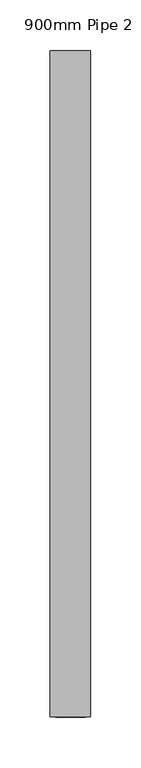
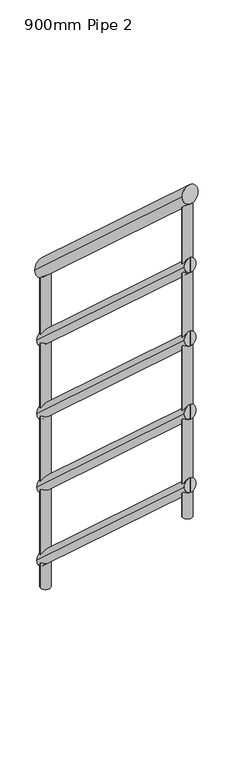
"""IFC4 building model written with IfcOpenShell, lengths in millimetres: railing geometry, 900mm Pipe 2."""

import ifcopenshell
import ifcopenshell.guid

model = None  # the IFC model being written
_history = None  # IfcOwnerHistory: only IFC2X3 demands one
_inside = {}  # id of a spatial element -> (the spatial element, [elements in it])
_under = {}  # id of a project, library or spatial element -> (it, [spatial elements below it])
_declared = {}  # id of a project -> (the project, [libraries it declares])
_typed = {}  # id of a type object -> (the type object, [elements of that type])
_made_of = {}  # id of a material, layer set ... -> (it, [elements and type objects made of it])


def new_model(schema):
    """Start an empty IFC model of exactly this schema.

    Asked for "IFC4X3", IfcOpenShell would pick the latest addendum, in which some entities
    have other attributes; the version numbers below select the first issue.
    IFC2X3 requires an IfcOwnerHistory on every rooted entity: one is made here for all.
    """
    global model, _history
    if schema == "IFC4X3":
        model = ifcopenshell.file(schema_version=(4, 3, 0, 0))
    else:
        model = ifcopenshell.file(schema=schema)
    _inside.clear()
    _under.clear()
    _declared.clear()
    _typed.clear()
    _made_of.clear()
    _history = None
    if model.schema == "IFC2X3":
        org = make("IfcOrganization", Name="unknown")
        user = make(
            "IfcPersonAndOrganization",
            ThePerson=make("IfcPerson", FamilyName="unknown"),
            TheOrganization=org,
        )
        app = make(
            "IfcApplication",
            ApplicationDeveloper=org,
            Version="unknown",
            ApplicationFullName="unknown",
            ApplicationIdentifier="unknown",
        )
        _history = make(
            "IfcOwnerHistory",
            OwningUser=user,
            OwningApplication=app,
            ChangeAction="ADDED",
            CreationDate=0,
        )
    return model


def make(cls, **values):
    """One entity of the class cls with the attributes given. An attribute that is None is left unset."""
    return model.create_entity(
        cls, **{name: value for name, value in values.items() if value is not None}
    )


def rooted(cls, **values):
    """An entity with a GlobalId (a new one), such as an element, a storey or a relation."""
    return make(cls, GlobalId=ifcopenshell.guid.new(), OwnerHistory=_history, **values)


def si_unit(unit_type, name, prefix=None):
    """IfcSIUnit, for example si_unit("LENGTHUNIT", "METRE", prefix="MILLI")."""
    return make("IfcSIUnit", UnitType=unit_type, Prefix=prefix, Name=name)


def assignment(units):
    """IfcUnitAssignment: the units of a project."""
    return None if units is None else make("IfcUnitAssignment", Units=units)


def point(xyz):
    """IfcCartesianPoint."""
    return None if xyz is None else make("IfcCartesianPoint", Coordinates=xyz)


def direction(xyz):
    """IfcDirection."""
    return None if xyz is None else make("IfcDirection", DirectionRatios=xyz)


def frame(location, z_axis=None, x_axis=None):
    """IfcAxis2Placement3D, a coordinate frame: its origin and axes. An axis left out is left unset."""
    return make(
        "IfcAxis2Placement3D",
        Location=point(location),
        Axis=direction(z_axis),
        RefDirection=direction(x_axis),
    )


def origin():
    """The frame at (0, 0, 0) with its axes left unset."""
    return frame((0.0, 0.0, 0.0))


def place(relative_to, where):
    """IfcLocalPlacement: puts the frame where relative to a parent placement (None: the world)."""
    return make(
        "IfcLocalPlacement", PlacementRelTo=relative_to, RelativePlacement=where
    )


def context(
    kind, dimensions, precision=None, world=None, true_north=None, identifier=None
):
    """IfcGeometricRepresentationContext, for example the 3D "Model" context."""
    return make(
        "IfcGeometricRepresentationContext",
        ContextIdentifier=identifier,
        ContextType=kind,
        CoordinateSpaceDimension=dimensions,
        Precision=precision,
        WorldCoordinateSystem=world,
        TrueNorth=true_north,
    )


def project(units=None, contexts=None):
    """IfcProject with its units and contexts."""
    return rooted(
        "IfcProject",
        Name="project",
        RepresentationContexts=contexts,
        UnitsInContext=assignment(units),
    )


def spatial(cls, under=None, at=None, **own):
    """A site, building, storey or space (cls), placed at a placement, below another one or the project."""
    s = rooted(cls, ObjectPlacement=at, **own)
    if under is not None:
        _under.setdefault(under.id(), (under, []))[1].append(s)
    return s


def circle_curve(where, radius):
    """IfcCircle in the frame where."""
    return make("IfcCircle", Position=where, Radius=radius)


def ellipse_curve(where, semi_axis1, semi_axis2):
    """IfcEllipse in the frame where."""
    return make(
        "IfcEllipse", Position=where, SemiAxis1=semi_axis1, SemiAxis2=semi_axis2
    )


def shape(context_of_items, identifier, shape_type, items):
    """IfcShapeRepresentation: the items that make up one representation, for example the "Body"."""
    return make(
        "IfcShapeRepresentation",
        ContextOfItems=context_of_items,
        RepresentationIdentifier=identifier,
        RepresentationType=shape_type,
        Items=items,
    )


def source(mapping_origin, context_of_items, identifier, shape_type, items):
    """IfcRepresentationMap: a shape defined once, which mapped items show again and again."""
    return make(
        "IfcRepresentationMap",
        MappingOrigin=mapping_origin,
        MappedRepresentation=shape(context_of_items, identifier, shape_type, items),
    )


def transform(
    local_origin,
    x_axis=None,
    y_axis=None,
    z_axis=None,
    scale=None,
    scale2=None,
    scale3=None,
    uniform=True,
):
    """IfcCartesianTransformationOperator3D, or its non-uniform kind. x_axis, y_axis, z_axis: its Axis1, 2, 3."""
    if uniform:
        return make(
            "IfcCartesianTransformationOperator3D",
            Axis1=direction(x_axis),
            Axis2=direction(y_axis),
            LocalOrigin=point(local_origin),
            Scale=scale,
            Axis3=direction(z_axis),
        )
    return make(
        "IfcCartesianTransformationOperator3DnonUniform",
        Axis1=direction(x_axis),
        Axis2=direction(y_axis),
        LocalOrigin=point(local_origin),
        Scale=scale,
        Axis3=direction(z_axis),
        Scale2=scale2,
        Scale3=scale3,
    )


def mapped(mapping_source, mapping_target):
    """IfcMappedItem: shows the shape of a source again, moved by a transform."""
    return make(
        "IfcMappedItem", MappingSource=mapping_source, MappingTarget=mapping_target
    )


def made_of(thing, what):
    """Note that an element or type object is made of a material, layer set ...; save() writes the relation."""
    if what is not None:
        _made_of.setdefault(what.id(), (what, []))[1].append(thing)
    return thing


def element(
    cls,
    number,
    at=None,
    inside=None,
    cuts=None,
    type_object=None,
    material=None,
    context=None,
    identifier="Body",
    shape_type=None,
    held_by="IfcProductDefinitionShape",
    body=None,
    shapes=None,
    **own,
):
    """One element of the class cls, such as IfcWall. Its Tag is "e" and its number.

    at: its placement. inside: the storey or other place that contains it. cuts: it is an
    opening in that element (IfcRelVoidsElement). A single representation is given by context,
    identifier, shape_type and body (its items); several are given by shapes. held_by: the class
    of the entity that holds the representations. save() writes the other relations.
    """
    e = rooted(cls, Tag="e%d" % number, ObjectPlacement=at, **own)
    if body is not None:
        shapes = [shape(context, identifier, shape_type, body)]
    if shapes is not None:
        e.Representation = make(held_by, Representations=shapes)
    if inside is not None:
        _inside.setdefault(inside.id(), (inside, []))[1].append(e)
    if cuts is not None:
        rooted(
            "IfcRelVoidsElement", RelatingBuildingElement=cuts, RelatedOpeningElement=e
        )
    if type_object is not None:
        _typed.setdefault(type_object.id(), (type_object, []))[1].append(e)
    return made_of(e, material)


def aggregate(whole, parts):
    """IfcRelAggregates: a whole, such as a stair, and the parts it consists of."""
    return rooted("IfcRelAggregates", RelatingObject=whole, RelatedObjects=parts)


def save(model, path):
    """Write the relations noted so far, then the file.

    IfcRelAggregates (storeys below a building ...), IfcRelContainedInSpatialStructure (elements
    in a storey), IfcRelDefinesByType, IfcRelAssociatesMaterial and IfcRelDeclares: one each for
    every whole, place, type object, material and project.
    """
    for whole, parts in _under.values():
        aggregate(whole, parts)
    for where, things in _inside.values():
        rooted(
            "IfcRelContainedInSpatialStructure",
            RelatedElements=things,
            RelatingStructure=where,
        )
    for kind, things in _typed.values():
        rooted("IfcRelDefinesByType", RelatedObjects=things, RelatingType=kind)
    for what, things in _made_of.values():
        rooted("IfcRelAssociatesMaterial", RelatedObjects=things, RelatingMaterial=what)
    for by, libraries in _declared.values():
        rooted("IfcRelDeclares", RelatingContext=by, RelatedDefinitions=libraries)
    model.write(path)


def plane_surface(at):
    """IfcPlane: the flat surface through the origin of the frame at, square to its z axis."""
    return make("IfcPlane", Position=at)


def cylinder_surface(at, radius):
    """IfcCylindricalSurface: all points at the distance radius from the z axis of the frame at."""
    return make("IfcCylindricalSurface", Position=at, Radius=radius)


def advanced_brep(points, edges, surfaces, faces):
    """IfcAdvancedBrep: a solid bounded by faces that lie on surfaces and meet in shared edges.

    An edge is (start, end): straight between two places in points (the first is 0);
    or (start, end, curve); or (start, end, curve, False) where it runs against its curve.
    A face is (place in surfaces, loops), or (place, loops, False) where it looks against
    its surface's normal. A loop lists edges by number (the first is 1), with a minus sign
    where the edge is run from its end to its start. The first loop is the outer one.
    """
    corners = [point(p) for p in points]
    vertices = [make("IfcVertexPoint", VertexGeometry=c) for c in corners]
    made = []
    for start, end, *more in edges:
        made.append(
            make(
                "IfcEdgeCurve",
                EdgeStart=vertices[start],
                EdgeEnd=vertices[end],
                EdgeGeometry=more[0] if more else make("IfcPolyline", Points=[corners[start], corners[end]]),
                SameSense=more[1] if len(more) > 1 else True,
            )
        )
    hull = []
    for where, loops, *sense in faces:
        bounds = []
        for j, loop in enumerate(loops):
            ring = [make("IfcOrientedEdge", EdgeElement=made[abs(k) - 1], Orientation=k > 0) for k in loop]
            bounds.append(
                make(
                    "IfcFaceOuterBound" if j == 0 else "IfcFaceBound",
                    Bound=make("IfcEdgeLoop", EdgeList=ring),
                    Orientation=True,
                )
            )
        hull.append(make("IfcAdvancedFace", Bounds=bounds, FaceSurface=surfaces[where], SameSense=sense[0] if sense else True))
    return make("IfcAdvancedBrep", Outer=make("IfcClosedShell", CfsFaces=hull))


def railing_900mm_pipe_2_4ab0b3c4(model_context):
    return source(origin(), model_context, "Body", "AdvancedBrep", [
        advanced_brep(
        [(-4971.8266822, 6973.2328473, 272.9707841), (-5011.8266822, 6973.2328473, 272.9707841), (-4971.8266822, 6313.2328473, 872.9707841), (-5011.8266822, 6313.2328473, 872.9707841)],
        [
            (0, 1, ellipse_curve(frame((-4991.8266822, 6973.2328473, 272.9707841), z_axis=(0.0, 1.0, 0.0), x_axis=(0.0, 0.0, -1.0)), 27.0292159, 20.0)),
            (1, 0, ellipse_curve(frame((-4991.8266822, 6973.2328473, 272.9707841), z_axis=(0.0, 1.0, 0.0), x_axis=(0.0, 0.0, -1.0)), 27.0292159, 20.0)),
            (2, 3, ellipse_curve(frame((-4991.8266822, 6313.2328473, 872.9707841), z_axis=(0.0, -1.0, 0.0), x_axis=(0.0, 0.0, -1.0)), 27.0292159, 20.0)),
            (3, 2, ellipse_curve(frame((-4991.8266822, 6313.2328473, 872.9707841), z_axis=(0.0, -1.0, 0.0), x_axis=(0.0, 0.0, -1.0)), 27.0292159, 20.0)),
            (0, 2),
            (3, 1),
        ],
        [
            plane_surface(frame((-4991.8266822, 6973.2328473, 300.0), z_axis=(0.0, 1.0, 0.0), x_axis=(0.0, 0.0, -1.0))),
            plane_surface(frame((-4991.8266822, 6313.2328473, 900.0), z_axis=(0.0, -1.0, 0.0), x_axis=(0.0, 0.0, -1.0))),
            cylinder_surface(frame((-4991.8266822, 6959.7793914, 285.2011985), z_axis=(0.0, 0.7399400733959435, -0.6726727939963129), x_axis=(-1.0, 0.0, 0.0)), 20.0),
        ],
        [
            (0, [[1, 2]]),
            (1, [[3, 4]]),
            (2, [[-1, 5, -4, 6]]),
            (2, [[-2, -6, -3, -5]]),
        ],
    ),
        advanced_brep(
        [(-4976.8266822, 6973.2328473, 79.7280881), (-5006.8266822, 6973.2328473, 79.7280881), (-4976.8266822, 6313.2328473, 679.7280881), (-5006.8266822, 6313.2328473, 679.7280881)],
        [
            (0, 1, ellipse_curve(frame((-4991.8266822, 6973.2328473, 79.7280881), z_axis=(0.0, 1.0, 0.0), x_axis=(0.0, 0.0, -1.0)), 20.2719119, 15.0)),
            (1, 0, ellipse_curve(frame((-4991.8266822, 6973.2328473, 79.7280881), z_axis=(0.0, 1.0, 0.0), x_axis=(0.0, 0.0, -1.0)), 20.2719119, 15.0)),
            (2, 3, ellipse_curve(frame((-4991.8266822, 6313.2328473, 679.7280881), z_axis=(0.0, -1.0, 0.0), x_axis=(0.0, 0.0, -1.0)), 20.2719119, 15.0)),
            (3, 2, ellipse_curve(frame((-4991.8266822, 6313.2328473, 679.7280881), z_axis=(0.0, -1.0, 0.0), x_axis=(0.0, 0.0, -1.0)), 20.2719119, 15.0)),
            (0, 2),
            (3, 1),
        ],
        [
            plane_surface(frame((-4991.8266822, 6973.2328473, 100.0), z_axis=(0.0, 1.0, 0.0), x_axis=(0.0, 0.0, -1.0))),
            plane_surface(frame((-4991.8266822, 6313.2328473, 700.0), z_axis=(0.0, -1.0, 0.0), x_axis=(0.0, 0.0, -1.0))),
            cylinder_surface(frame((-4991.8266822, 6963.1427553, 88.9008989), z_axis=(0.0, 0.7399400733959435, -0.6726727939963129), x_axis=(-1.0, 0.0, 0.0)), 15.0),
        ],
        [
            (0, [[1, 2]]),
            (1, [[3, 4]]),
            (2, [[-1, 5, -4, 6]]),
            (2, [[-2, -6, -3, -5]]),
        ],
    ),
        advanced_brep(
        [(-4976.8266822, 6973.2328473, -120.2719119), (-5006.8266822, 6973.2328473, -120.2719119), (-4976.8266822, 6313.2328473, 479.7280881), (-5006.8266822, 6313.2328473, 479.7280881)],
        [
            (0, 1, ellipse_curve(frame((-4991.8266822, 6973.2328473, -120.2719119), z_axis=(0.0, 1.0, 0.0), x_axis=(0.0, 0.0, -1.0)), 20.2719119, 15.0)),
            (1, 0, ellipse_curve(frame((-4991.8266822, 6973.2328473, -120.2719119), z_axis=(0.0, 1.0, 0.0), x_axis=(0.0, 0.0, -1.0)), 20.2719119, 15.0)),
            (2, 3, ellipse_curve(frame((-4991.8266822, 6313.2328473, 479.7280881), z_axis=(0.0, -1.0, 0.0), x_axis=(0.0, 0.0, -1.0)), 20.2719119, 15.0)),
            (3, 2, ellipse_curve(frame((-4991.8266822, 6313.2328473, 479.7280881), z_axis=(0.0, -1.0, 0.0), x_axis=(0.0, 0.0, -1.0)), 20.2719119, 15.0)),
            (0, 2),
            (3, 1),
        ],
        [
            plane_surface(frame((-4991.8266822, 6973.2328473, -100.0), z_axis=(0.0, 1.0, 0.0), x_axis=(0.0, 0.0, -1.0))),
            plane_surface(frame((-4991.8266822, 6313.2328473, 500.0), z_axis=(0.0, -1.0, 0.0), x_axis=(0.0, 0.0, -1.0))),
            cylinder_surface(frame((-4991.8266822, 6963.1427553, -111.0991011), z_axis=(0.0, 0.7399400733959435, -0.6726727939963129), x_axis=(-1.0, 0.0, 0.0)), 15.0),
        ],
        [
            (0, [[1, 2]]),
            (1, [[3, 4]]),
            (2, [[-1, 5, -4, 6]]),
            (2, [[-2, -6, -3, -5]]),
        ],
    ),
        advanced_brep(
        [(-4976.8266822, 6973.2328473, -320.2719119), (-5006.8266822, 6973.2328473, -320.2719119), (-4976.8266822, 6313.2328473, 279.7280881), (-5006.8266822, 6313.2328473, 279.7280881)],
        [
            (0, 1, ellipse_curve(frame((-4991.8266822, 6973.2328473, -320.2719119), z_axis=(0.0, 1.0, 0.0), x_axis=(0.0, 0.0, -1.0)), 20.2719119, 15.0)),
            (1, 0, ellipse_curve(frame((-4991.8266822, 6973.2328473, -320.2719119), z_axis=(0.0, 1.0, 0.0), x_axis=(0.0, 0.0, -1.0)), 20.2719119, 15.0)),
            (2, 3, ellipse_curve(frame((-4991.8266822, 6313.2328473, 279.7280881), z_axis=(0.0, -1.0, 0.0), x_axis=(0.0, 0.0, -1.0)), 20.2719119, 15.0)),
            (3, 2, ellipse_curve(frame((-4991.8266822, 6313.2328473, 279.7280881), z_axis=(0.0, -1.0, 0.0), x_axis=(0.0, 0.0, -1.0)), 20.2719119, 15.0)),
            (0, 2),
            (3, 1),
        ],
        [
            plane_surface(frame((-4991.8266822, 6973.2328473, -300.0), z_axis=(0.0, 1.0, 0.0), x_axis=(0.0, 0.0, -1.0))),
            plane_surface(frame((-4991.8266822, 6313.2328473, 300.0), z_axis=(0.0, -1.0, 0.0), x_axis=(0.0, 0.0, -1.0))),
            cylinder_surface(frame((-4991.8266822, 6963.1427553, -311.0991011), z_axis=(0.0, 0.7399400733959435, -0.6726727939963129), x_axis=(-1.0, 0.0, 0.0)), 15.0),
        ],
        [
            (0, [[1, 2]]),
            (1, [[3, 4]]),
            (2, [[-1, 5, -4, 6]]),
            (2, [[-2, -6, -3, -5]]),
        ],
    ),
        advanced_brep(
        [(-4976.8266822, 6973.2328473, -520.2719119), (-5006.8266822, 6973.2328473, -520.2719119), (-4976.8266822, 6313.2328473, 79.7280881), (-5006.8266822, 6313.2328473, 79.7280881)],
        [
            (0, 1, ellipse_curve(frame((-4991.8266822, 6973.2328473, -520.2719119), z_axis=(0.0, 1.0, 0.0), x_axis=(0.0, 0.0, -1.0)), 20.2719119, 15.0)),
            (1, 0, ellipse_curve(frame((-4991.8266822, 6973.2328473, -520.2719119), z_axis=(0.0, 1.0, 0.0), x_axis=(0.0, 0.0, -1.0)), 20.2719119, 15.0)),
            (2, 3, ellipse_curve(frame((-4991.8266822, 6313.2328473, 79.7280881), z_axis=(0.0, -1.0, 0.0), x_axis=(0.0, 0.0, -1.0)), 20.2719119, 15.0)),
            (3, 2, ellipse_curve(frame((-4991.8266822, 6313.2328473, 79.7280881), z_axis=(0.0, -1.0, 0.0), x_axis=(0.0, 0.0, -1.0)), 20.2719119, 15.0)),
            (0, 2),
            (3, 1),
        ],
        [
            plane_surface(frame((-4991.8266822, 6973.2328473, -500.0), z_axis=(0.0, 1.0, 0.0), x_axis=(0.0, 0.0, -1.0))),
            plane_surface(frame((-4991.8266822, 6313.2328473, 100.0), z_axis=(0.0, -1.0, 0.0), x_axis=(0.0, 0.0, -1.0))),
            cylinder_surface(frame((-4991.8266822, 6963.1427553, -511.0991011), z_axis=(0.0, 0.7399400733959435, -0.6726727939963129), x_axis=(-1.0, 0.0, 0.0)), 15.0),
        ],
        [
            (0, [[1, 2]]),
            (1, [[3, 4]]),
            (2, [[-1, 5, -4, 6]]),
            (2, [[-2, -6, -3, -5]]),
        ],
    ),
        advanced_brep(
        [(-5004.3266822, 6325.4194462, -11.0787263), (-4979.3266822, 6325.4194462, -11.0787263), (-4979.3266822, 6325.4194462, 834.8628419), (-5004.3266822, 6325.4194462, 834.8628419)],
        [
            (0, 1, circle_curve(frame((-4991.8266822, 6325.4194462, -11.0787263), z_axis=(0.0, 0.0, -1.0), x_axis=(1.0, 0.0, 0.0)), 12.5)),
            (1, 0, circle_curve(frame((-4991.8266822, 6325.4194462, -11.0787263), z_axis=(0.0, 0.0, -1.0), x_axis=(1.0, 0.0, 0.0)), 12.5)),
            (1, 2),
            (2, 3, ellipse_curve(frame((-4991.8266822, 6325.4194462, 834.8628419), z_axis=(0.0, -0.672672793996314, -0.7399400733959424), x_axis=(0.0, -0.7399400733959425, 0.6726727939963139)), 16.8932599, 12.5)),
            (3, 0),
            (3, 2, ellipse_curve(frame((-4991.8266822, 6325.4194462, 834.8628419), z_axis=(0.0, -0.672672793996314, -0.7399400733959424), x_axis=(0.0, -0.7399400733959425, 0.6726727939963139)), 16.8932599, 12.5)),
        ],
        [
            plane_surface(frame((-4979.3266822, 6325.4194462, -11.0787263), z_axis=(0.0, 0.0, -1.0), x_axis=(0.0, -1.0, 0.0))),
            cylinder_surface(frame((-4991.8266822, 6325.4194462, -11.0787263), z_axis=(0.0, 0.0, 1.0), x_axis=(1.0, 0.0, 0.0)), 12.5),
            plane_surface(frame((-4944.6008523, 6285.0592578, 871.5539222), z_axis=(0.0, 0.672672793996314, 0.7399400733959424), x_axis=(-1.0, 0.0, 0.0))),
        ],
        [
            (0, [[1, 2]]),
            (1, [[-2, 3, 4, 5]]),
            (1, [[-1, -5, 6, -3]]),
            (2, [[-4, -6]]),
        ],
    ),
        advanced_brep(
        [(-5004.3266822, 6961.0462484, -588.9212737), (-4979.3266822, 6961.0462484, -588.9212737), (-4979.3266822, 6961.0462484, 257.0202945), (-5004.3266822, 6961.0462484, 257.0202945)],
        [
            (0, 1, circle_curve(frame((-4991.8266822, 6961.0462484, -588.9212737), z_axis=(0.0, 0.0, -1.0), x_axis=(1.0, 0.0, 0.0)), 12.5)),
            (1, 0, circle_curve(frame((-4991.8266822, 6961.0462484, -588.9212737), z_axis=(0.0, 0.0, -1.0), x_axis=(1.0, 0.0, 0.0)), 12.5)),
            (1, 2),
            (2, 3, ellipse_curve(frame((-4991.8266822, 6961.0462484, 257.0202945), z_axis=(0.0, -0.672672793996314, -0.7399400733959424), x_axis=(0.0, -0.7399400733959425, 0.6726727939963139)), 16.8932599, 12.5)),
            (3, 0),
            (3, 2, ellipse_curve(frame((-4991.8266822, 6961.0462484, 257.0202945), z_axis=(0.0, -0.672672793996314, -0.7399400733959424), x_axis=(0.0, -0.7399400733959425, 0.6726727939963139)), 16.8932599, 12.5)),
        ],
        [
            plane_surface(frame((-4979.3266822, 6961.0462484, -588.9212737), z_axis=(0.0, 0.0, -1.0), x_axis=(0.0, -1.0, 0.0))),
            cylinder_surface(frame((-4991.8266822, 6961.0462484, -588.9212737), z_axis=(0.0, 0.0, 1.0), x_axis=(1.0, 0.0, 0.0)), 12.5),
            plane_surface(frame((-4944.6008523, 6920.68606, 293.7113748), z_axis=(0.0, 0.672672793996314, 0.7399400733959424), x_axis=(-1.0, 0.0, 0.0))),
        ],
        [
            (0, [[1, 2]]),
            (1, [[-2, 3, 4, 5]]),
            (1, [[-1, -5, 6, -3]]),
            (2, [[-4, -6]]),
        ],
    ),
    ])


if __name__ == "__main__":
    model = new_model("IFC4")
    model_context = context("Model", 3, world=origin())
    ifc_project = project(units=[si_unit("LENGTHUNIT", "METRE", prefix="MILLI")], contexts=[model_context])
    site = spatial("IfcSite", under=ifc_project)
    building = spatial("IfcBuilding", under=site)
    placement = place(None, origin())
    railing_900mm_pipe_2_shape = railing_900mm_pipe_2_4ab0b3c4(model_context)
    element("IfcRailing", 1, ObjectType="900mm Pipe 2", at=placement, inside=building, context=model_context, shape_type="MappedRepresentation", body=[
        mapped(railing_900mm_pipe_2_shape, transform((0.0, 0.0, 0.0), x_axis=(1.0, 0.0, 0.0), y_axis=(0.0, 1.0, 0.0), z_axis=(0.0, 0.0, 1.0))),
    ])
    save(model, "model.ifc")
